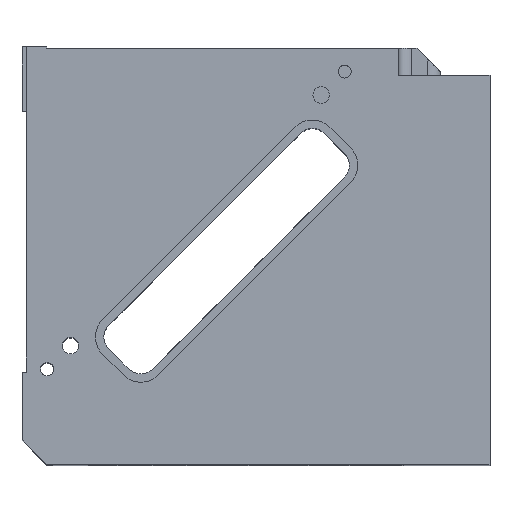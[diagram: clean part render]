
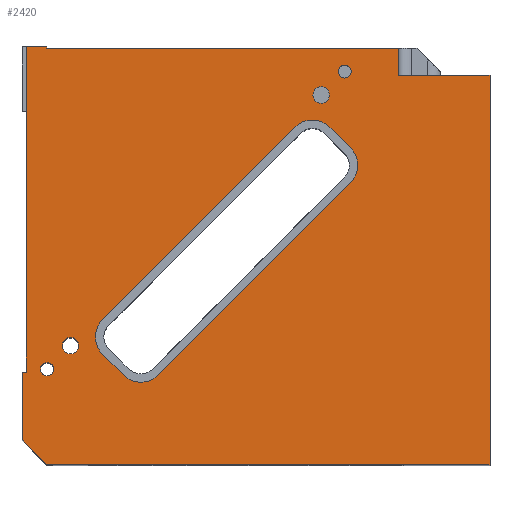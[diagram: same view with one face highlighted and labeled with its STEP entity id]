
A CAD part, top view. The second image highlights one B-rep face of the part: STEP entity #2420.
In plain terms, the highlighted planar face has unit normal (0, 0, 1).
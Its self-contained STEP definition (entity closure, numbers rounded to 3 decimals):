
#45=FACE_BOUND('',#338,.T.);
#46=FACE_BOUND('',#339,.T.);
#47=FACE_BOUND('',#340,.T.);
#48=FACE_BOUND('',#341,.T.);
#49=FACE_BOUND('',#342,.T.);
#116=PLANE('',#2576);
#197=FACE_OUTER_BOUND('',#337,.T.);
#337=EDGE_LOOP('',(#1757,#1758,#1759,#1760,#1761,#1762,#1763,#1764,#1765,
#1766,#1767));
#338=EDGE_LOOP('',(#1768));
#339=EDGE_LOOP('',(#1769));
#340=EDGE_LOOP('',(#1770));
#341=EDGE_LOOP('',(#1771));
#342=EDGE_LOOP('',(#1772,#1773,#1774,#1775,#1776,#1777,#1778,#1779));
#518=LINE('',#3546,#748);
#536=LINE('',#3587,#766);
#541=LINE('',#3597,#771);
#561=LINE('',#3659,#791);
#562=LINE('',#3661,#792);
#563=LINE('',#3663,#793);
#564=LINE('',#3665,#794);
#565=LINE('',#3667,#795);
#566=LINE('',#3669,#796);
#567=LINE('',#3671,#797);
#568=LINE('',#3672,#798);
#569=LINE('',#3685,#799);
#570=LINE('',#3689,#800);
#571=LINE('',#3693,#801);
#572=LINE('',#3696,#802);
#748=VECTOR('',#2817,11.);
#766=VECTOR('',#2855,3.3);
#771=VECTOR('',#2864,42.5);
#791=VECTOR('',#2912,0.2);
#792=VECTOR('',#2913,2.5);
#793=VECTOR('',#2914,39.3);
#794=VECTOR('',#2915,0.5);
#795=VECTOR('',#2916,8.2);
#796=VECTOR('',#2917,4.243);
#797=VECTOR('',#2918,53.5);
#798=VECTOR('',#2919,47.);
#799=VECTOR('',#2930,32.8);
#800=VECTOR('',#2933,3.5);
#801=VECTOR('',#2936,32.8);
#802=VECTOR('',#2939,3.5);
#978=CIRCLE('',#2577,1.);
#979=CIRCLE('',#2578,1.);
#980=CIRCLE('',#2579,0.784);
#981=CIRCLE('',#2580,0.784);
#982=CIRCLE('',#2581,3.);
#983=CIRCLE('',#2582,3.);
#984=CIRCLE('',#2583,3.);
#985=CIRCLE('',#2584,3.);
#1071=VERTEX_POINT('',#3543);
#1072=VERTEX_POINT('',#3545);
#1085=VERTEX_POINT('',#3585);
#1088=VERTEX_POINT('',#3595);
#1116=VERTEX_POINT('',#3658);
#1117=VERTEX_POINT('',#3660);
#1118=VERTEX_POINT('',#3662);
#1119=VERTEX_POINT('',#3664);
#1120=VERTEX_POINT('',#3666);
#1121=VERTEX_POINT('',#3668);
#1122=VERTEX_POINT('',#3670);
#1123=VERTEX_POINT('',#3673);
#1124=VERTEX_POINT('',#3675);
#1125=VERTEX_POINT('',#3677);
#1126=VERTEX_POINT('',#3679);
#1127=VERTEX_POINT('',#3681);
#1128=VERTEX_POINT('',#3682);
#1129=VERTEX_POINT('',#3684);
#1130=VERTEX_POINT('',#3686);
#1131=VERTEX_POINT('',#3688);
#1132=VERTEX_POINT('',#3690);
#1133=VERTEX_POINT('',#3692);
#1134=VERTEX_POINT('',#3694);
#1319=EDGE_CURVE('',#1072,#1071,#518,.T.);
#1340=EDGE_CURVE('',#1071,#1085,#536,.T.);
#1345=EDGE_CURVE('',#1085,#1088,#541,.T.);
#1376=EDGE_CURVE('',#1088,#1116,#561,.T.);
#1377=EDGE_CURVE('',#1116,#1117,#562,.T.);
#1378=EDGE_CURVE('',#1117,#1118,#563,.T.);
#1379=EDGE_CURVE('',#1118,#1119,#564,.T.);
#1380=EDGE_CURVE('',#1119,#1120,#565,.T.);
#1381=EDGE_CURVE('',#1120,#1121,#566,.T.);
#1382=EDGE_CURVE('',#1121,#1122,#567,.T.);
#1383=EDGE_CURVE('',#1072,#1122,#568,.T.);
#1384=EDGE_CURVE('',#1123,#1123,#978,.T.);
#1385=EDGE_CURVE('',#1124,#1124,#979,.T.);
#1386=EDGE_CURVE('',#1125,#1125,#980,.T.);
#1387=EDGE_CURVE('',#1126,#1126,#981,.T.);
#1388=EDGE_CURVE('',#1127,#1128,#982,.T.);
#1389=EDGE_CURVE('',#1128,#1129,#569,.T.);
#1390=EDGE_CURVE('',#1129,#1130,#983,.T.);
#1391=EDGE_CURVE('',#1130,#1131,#570,.T.);
#1392=EDGE_CURVE('',#1131,#1132,#984,.T.);
#1393=EDGE_CURVE('',#1132,#1133,#571,.T.);
#1394=EDGE_CURVE('',#1133,#1134,#985,.T.);
#1395=EDGE_CURVE('',#1134,#1127,#572,.T.);
#1757=ORIENTED_EDGE('',*,*,#1319,.T.);
#1758=ORIENTED_EDGE('',*,*,#1340,.T.);
#1759=ORIENTED_EDGE('',*,*,#1345,.T.);
#1760=ORIENTED_EDGE('',*,*,#1376,.T.);
#1761=ORIENTED_EDGE('',*,*,#1377,.T.);
#1762=ORIENTED_EDGE('',*,*,#1378,.T.);
#1763=ORIENTED_EDGE('',*,*,#1379,.T.);
#1764=ORIENTED_EDGE('',*,*,#1380,.T.);
#1765=ORIENTED_EDGE('',*,*,#1381,.T.);
#1766=ORIENTED_EDGE('',*,*,#1382,.T.);
#1767=ORIENTED_EDGE('',*,*,#1383,.F.);
#1768=ORIENTED_EDGE('',*,*,#1384,.T.);
#1769=ORIENTED_EDGE('',*,*,#1385,.T.);
#1770=ORIENTED_EDGE('',*,*,#1386,.T.);
#1771=ORIENTED_EDGE('',*,*,#1387,.T.);
#1772=ORIENTED_EDGE('',*,*,#1388,.T.);
#1773=ORIENTED_EDGE('',*,*,#1389,.T.);
#1774=ORIENTED_EDGE('',*,*,#1390,.T.);
#1775=ORIENTED_EDGE('',*,*,#1391,.T.);
#1776=ORIENTED_EDGE('',*,*,#1392,.T.);
#1777=ORIENTED_EDGE('',*,*,#1393,.T.);
#1778=ORIENTED_EDGE('',*,*,#1394,.T.);
#1779=ORIENTED_EDGE('',*,*,#1395,.T.);
#2420=ADVANCED_FACE('',(#197,#45,#46,#47,#48,#49),#116,.T.);
#2576=AXIS2_PLACEMENT_3D('',#3657,#2910,#2911);
#2577=AXIS2_PLACEMENT_3D('',#3674,#2920,#2921);
#2578=AXIS2_PLACEMENT_3D('',#3676,#2922,#2923);
#2579=AXIS2_PLACEMENT_3D('',#3678,#2924,#2925);
#2580=AXIS2_PLACEMENT_3D('',#3680,#2926,#2927);
#2581=AXIS2_PLACEMENT_3D('',#3683,#2928,#2929);
#2582=AXIS2_PLACEMENT_3D('',#3687,#2931,#2932);
#2583=AXIS2_PLACEMENT_3D('',#3691,#2934,#2935);
#2584=AXIS2_PLACEMENT_3D('',#3695,#2937,#2938);
#2817=DIRECTION('',(-1.,0.,0.));
#2855=DIRECTION('',(0.,1.,0.));
#2864=DIRECTION('',(-1.,0.,0.));
#2910=DIRECTION('center_axis',(0.,0.,1.));
#2911=DIRECTION('ref_axis',(1.,0.,0.));
#2912=DIRECTION('',(0.,1.,0.));
#2913=DIRECTION('',(-1.,0.,0.));
#2914=DIRECTION('',(0.,-1.,0.));
#2915=DIRECTION('',(-1.,0.,0.));
#2916=DIRECTION('',(0.,-1.,0.));
#2917=DIRECTION('',(0.707,-0.707,0.));
#2918=DIRECTION('',(1.,0.,0.));
#2919=DIRECTION('',(0.,-1.,0.));
#2920=DIRECTION('center_axis',(0.,0.,-1.));
#2921=DIRECTION('ref_axis',(1.,0.,0.));
#2922=DIRECTION('center_axis',(0.,0.,-1.));
#2923=DIRECTION('ref_axis',(1.,0.,0.));
#2924=DIRECTION('center_axis',(0.,0.,-1.));
#2925=DIRECTION('ref_axis',(1.,0.,0.));
#2926=DIRECTION('center_axis',(0.,0.,-1.));
#2927=DIRECTION('ref_axis',(1.,0.,0.));
#2928=DIRECTION('center_axis',(0.,0.,-1.));
#2929=DIRECTION('ref_axis',(-0.707,0.707,0.));
#2930=DIRECTION('',(0.707,0.707,0.));
#2931=DIRECTION('center_axis',(0.,0.,-1.));
#2932=DIRECTION('ref_axis',(0.707,0.707,0.));
#2933=DIRECTION('',(0.707,-0.707,0.));
#2934=DIRECTION('center_axis',(0.,0.,-1.));
#2935=DIRECTION('ref_axis',(0.707,-0.707,0.));
#2936=DIRECTION('',(-0.707,-0.707,0.));
#2937=DIRECTION('center_axis',(0.,0.,-1.));
#2938=DIRECTION('ref_axis',(-0.707,-0.707,0.));
#2939=DIRECTION('',(-0.707,0.707,0.));
#3543=CARTESIAN_POINT('',(18.5,47.,24.5));
#3545=CARTESIAN_POINT('',(29.5,47.,24.5));
#3546=CARTESIAN_POINT('',(17.625,47.,24.5));
#3585=CARTESIAN_POINT('',(18.5,50.3,24.5));
#3587=CARTESIAN_POINT('',(18.5,29.375,24.5));
#3595=CARTESIAN_POINT('',(-24.,50.3,24.5));
#3597=CARTESIAN_POINT('',(5.75,50.3,24.5));
#3657=CARTESIAN_POINT('Origin',(11.75,11.75,24.5));
#3658=CARTESIAN_POINT('',(-24.,50.5,24.5));
#3659=CARTESIAN_POINT('',(-24.,31.125,24.5));
#3660=CARTESIAN_POINT('',(-26.5,50.5,24.5));
#3661=CARTESIAN_POINT('',(23.5,50.5,24.5));
#3662=CARTESIAN_POINT('',(-26.5,11.2,24.5));
#3663=CARTESIAN_POINT('',(-26.5,21.3,24.5));
#3664=CARTESIAN_POINT('',(-27.,11.2,24.5));
#3665=CARTESIAN_POINT('',(-7.625,11.2,24.5));
#3666=CARTESIAN_POINT('',(-27.,3.,24.5));
#3667=CARTESIAN_POINT('',(-27.,50.5,24.5));
#3668=CARTESIAN_POINT('',(-24.,0.,24.5));
#3669=CARTESIAN_POINT('',(-19.5,-4.5,24.5));
#3670=CARTESIAN_POINT('',(29.5,0.,24.5));
#3671=CARTESIAN_POINT('',(-27.,0.,24.5));
#3672=CARTESIAN_POINT('',(29.5,47.5,24.5));
#3673=CARTESIAN_POINT('',(10.122,44.642,24.5));
#3674=CARTESIAN_POINT('Origin',(9.122,44.642,24.5));
#3675=CARTESIAN_POINT('',(-20.142,14.378,24.5));
#3676=CARTESIAN_POINT('Origin',(-21.142,14.378,24.5));
#3677=CARTESIAN_POINT('',(12.734,47.471,24.5));
#3678=CARTESIAN_POINT('Origin',(11.95,47.471,24.5));
#3679=CARTESIAN_POINT('',(-23.187,11.55,24.5));
#3680=CARTESIAN_POINT('Origin',(-23.971,11.55,24.5));
#3681=CARTESIAN_POINT('',(-17.253,13.318,24.5));
#3682=CARTESIAN_POINT('',(-17.253,17.56,24.5));
#3683=CARTESIAN_POINT('Origin',(-15.132,15.439,24.5));
#3684=CARTESIAN_POINT('',(5.94,40.753,24.5));
#3685=CARTESIAN_POINT('',(-11.455,23.359,24.5));
#3686=CARTESIAN_POINT('',(10.182,40.753,24.5));
#3687=CARTESIAN_POINT('Origin',(8.061,38.632,24.5));
#3688=CARTESIAN_POINT('',(12.657,38.279,24.5));
#3689=CARTESIAN_POINT('',(17.825,33.111,24.5));
#3690=CARTESIAN_POINT('',(12.657,34.036,24.5));
#3691=CARTESIAN_POINT('Origin',(10.536,36.157,24.5));
#3692=CARTESIAN_POINT('',(-10.536,10.843,24.5));
#3693=CARTESIAN_POINT('',(6.859,28.238,24.5));
#3694=CARTESIAN_POINT('',(-14.779,10.843,24.5));
#3695=CARTESIAN_POINT('Origin',(-12.657,12.964,24.5));
#3696=CARTESIAN_POINT('',(-8.373,4.437,24.5));
